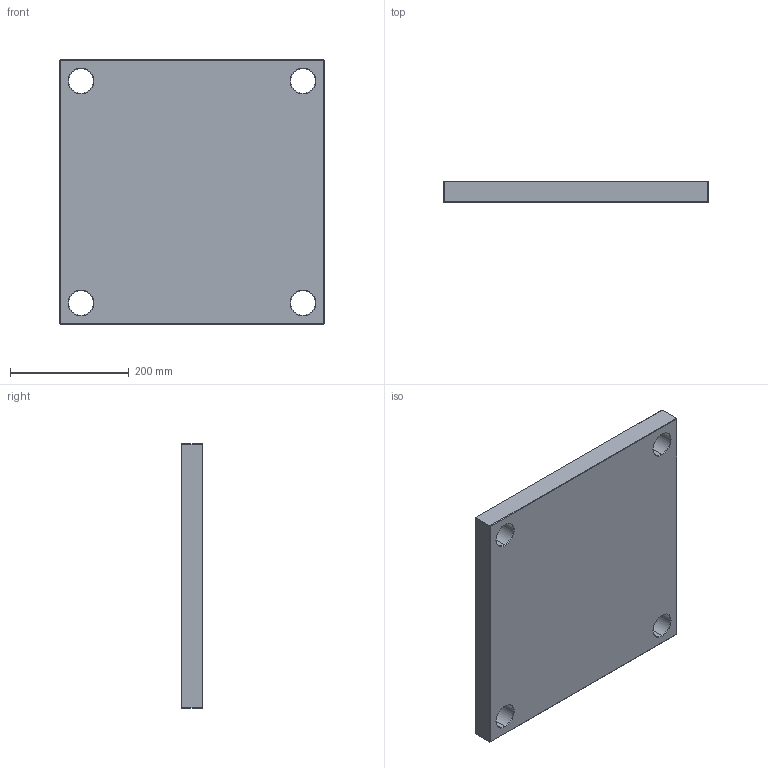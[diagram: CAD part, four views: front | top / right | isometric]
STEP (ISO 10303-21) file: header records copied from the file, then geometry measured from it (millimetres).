
FILE_DESCRIPTION (( 'STEP AP214' ), '1' );
FILE_NAME ('PCX-446x446x36.STEP', '2020-05-04T09:58:24', ( 'August' ), ( '' ), 'SwSTEP 2.0', 'SolidWorks 2018', '' );
FILE_SCHEMA (( 'AUTOMOTIVE_DESIGN' ));
Length unit declared in the file: millimetre
Products named in the file (1): PCX-446x446x36
Bounding box: 446 x 36 x 446 mm (x, y, z)
Volume: 6933594.2 mm3; surface area: 472642.5 mm2
Topology: 1 solids, 1 shells, 82 faces, 168 edges, 96 vertices
Faces by surface type: plane 34, cone 24, cylinder 24
Entity records: 2170 total; most frequent: DIRECTION 406, CARTESIAN_POINT 347, ORIENTED_EDGE 336, EDGE_CURVE 168, AXIS2_PLACEMENT_3D 155, EDGE_LOOP 98, LINE 96, VECTOR 96
